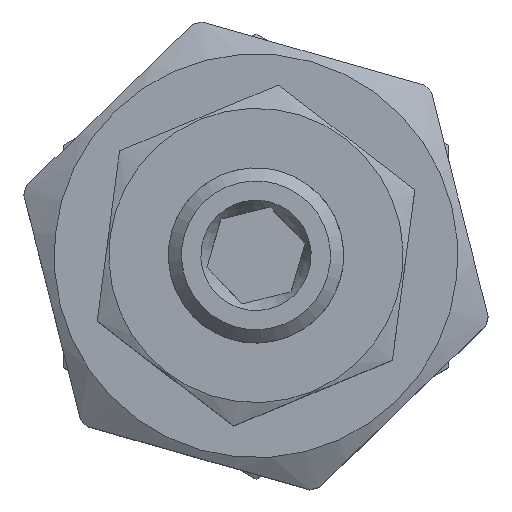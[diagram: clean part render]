
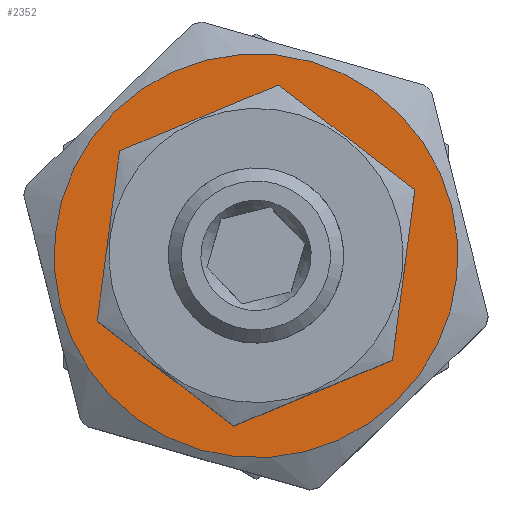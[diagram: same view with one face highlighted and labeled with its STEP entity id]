
A CAD part, top view. The second image highlights one B-rep face of the part: STEP entity #2352.
In plain terms, the highlighted planar face has unit normal (0, 0, 1).
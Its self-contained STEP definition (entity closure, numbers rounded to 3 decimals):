
#215=PLANE('',#2548);
#474=ORIENTED_EDGE('',*,*,#700,.F.);
#475=ORIENTED_EDGE('',*,*,#740,.F.);
#700=EDGE_CURVE('',#885,#885,#1017,.F.);
#740=EDGE_CURVE('',#913,#913,#1033,.T.);
#885=VERTEX_POINT('',#3585);
#913=VERTEX_POINT('',#3730);
#1017=CIRCLE('',#2516,11.527);
#1033=CIRCLE('',#2549,8.4);
#1216=EDGE_LOOP('',(#474));
#1217=EDGE_LOOP('',(#475));
#1455=FACE_BOUND('',#1216,.T.);
#1456=FACE_BOUND('',#1217,.T.);
#2352=ADVANCED_FACE('',(#1455,#1456),#215,.T.);
#2516=AXIS2_PLACEMENT_3D('',#3584,#2851,#2852);
#2548=AXIS2_PLACEMENT_3D('',#3728,#2927,#2928);
#2549=AXIS2_PLACEMENT_3D('',#3729,#2929,#2930);
#2851=DIRECTION('',(0.,0.,1.));
#2852=DIRECTION('',(0.696,-0.718,0.));
#2927=DIRECTION('',(0.,0.,1.));
#2928=DIRECTION('',(0.696,-0.718,0.));
#2929=DIRECTION('',(0.,0.,1.));
#2930=DIRECTION('',(0.,-1.,0.));
#3584=CARTESIAN_POINT('',(0.,0.,82.45));
#3585=CARTESIAN_POINT('',(8.028,-8.271,82.45));
#3728=CARTESIAN_POINT('',(0.,0.,82.45));
#3729=CARTESIAN_POINT('',(0.,0.,82.45));
#3730=CARTESIAN_POINT('',(0.,-8.4,82.45));
